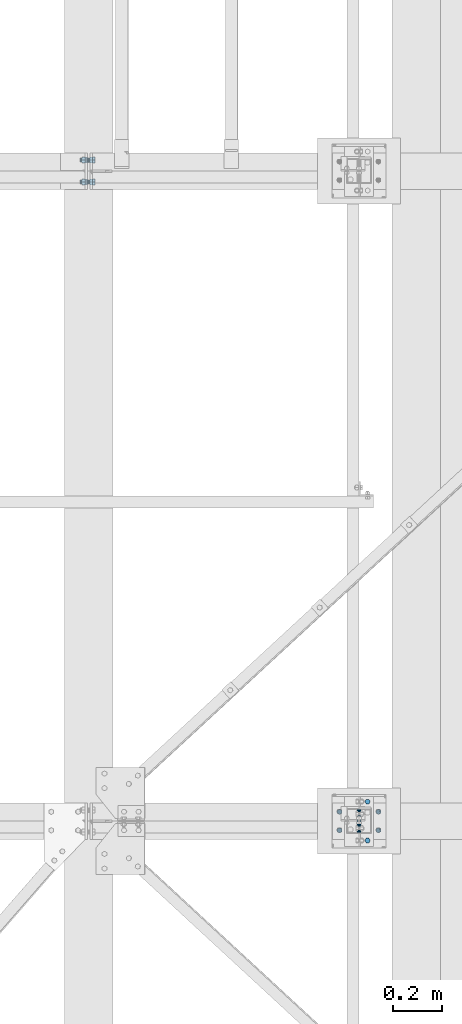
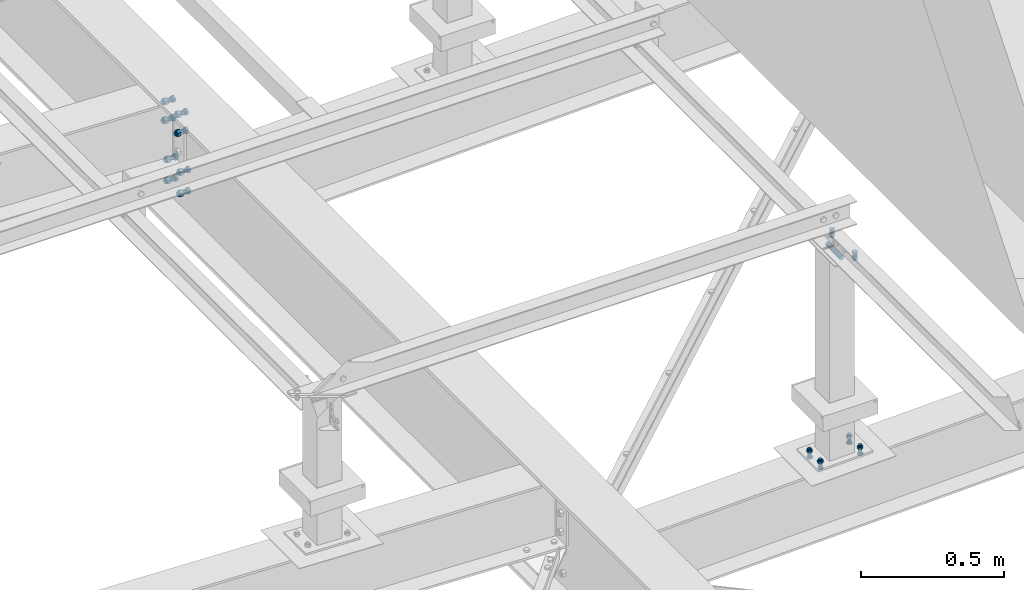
# One storey, part 179 of 3134: 7 mechanical fasteners, 4 elements without a shape of their own.
"""IFC2X3 building model written with IfcOpenShell, lengths in millimetres."""

from ifc_helpers import new_model, si_unit, frame, origin_with_axes, place, context, subcontext, project, spatial, faceted_brep, source, transform, mapped, material, type_object, element, aggregate, save


model = new_model("IFC2X3")

# Units and contexts
model_context = context("Model", 3, precision=1e-05, world=origin_with_axes())
body_context = subcontext(model_context, "Body", "Model", "MODEL_VIEW")
ifc_project = project(units=[si_unit("LENGTHUNIT", "METRE", prefix="MILLI"), si_unit("AREAUNIT", "SQUARE_METRE"), si_unit("VOLUMEUNIT", "CUBIC_METRE"), si_unit("MASSUNIT", "GRAM", prefix="KILO"), si_unit("TIMEUNIT", "SECOND"), si_unit("PLANEANGLEUNIT", "RADIAN"), si_unit("SOLIDANGLEUNIT", "STERADIAN"), si_unit("THERMODYNAMICTEMPERATUREUNIT", "DEGREE_CELSIUS"), si_unit("LUMINOUSINTENSITYUNIT", "LUMEN")], contexts=[model_context])

# Site, building, storey
site_placement = place(None, origin_with_axes())
site = spatial("IfcSite", under=ifc_project, at=site_placement, CompositionType="ELEMENT")
building_placement = place(site_placement, origin_with_axes())
building = spatial("IfcBuilding", under=site, at=building_placement, Name="Undefined", CompositionType="ELEMENT")
storey_placement = place(building_placement, origin_with_axes())
storey = spatial("IfcBuildingStorey", under=building, at=storey_placement, Name="Undefined", CompositionType="ELEMENT", Elevation=0.0)

# Assembly, mechanical fastener
assembly_1_placement = place(storey_placement, origin_with_axes())
assembly_1 = element("IfcElementAssembly", 1, at=assembly_1_placement, inside=storey, AssemblyPlace="NOTDEFINED", PredefinedType="RIGID_FRAME")
ifc_material = material(Name="8.8")
mechanical_fastener_type = type_object("IfcMechanicalFastenerType", Name="Bolt assembly")
shared_shape_1 = source(origin_with_axes(), body_context, "Body", "Brep", [
    faceted_brep([(10.9696551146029, -14.0, 0.0), (5.48482755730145, -14.0, 9.5), (-5.48482755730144, -14.0, 9.5), (-10.9696551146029, -14.0, 1.34339530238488e-15), (-5.48482755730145, -14.0, -9.5), (5.48482755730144, -14.0, -9.50000000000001), (5.48482755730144, -6.0, -9.50000000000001), (-5.48482755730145, -6.0, -9.5), (-10.9696551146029, -6.0, 1.34339530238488e-15), (-5.48482755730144, -6.0, 9.5), (5.48482755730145, -6.0, 9.5), (10.9696551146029, -6.0, 0.0), (6.0, -6.0, 0.0), (5.19615242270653, -6.0, 3.00000000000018), (2.99999999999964, -6.0, 5.19615242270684), (-6.21801588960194e-13, -6.0, 6.0), (-3.00000000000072, -6.0, 5.19615242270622), (-5.19615242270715, -6.0, 2.9999999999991), (-6.0, -6.0, -1.24360317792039e-12), (-5.19615242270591, -6.0, -3.00000000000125), (-2.99999999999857, -6.0, -5.19615242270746), (1.85874342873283e-12, -6.0, -6.0), (3.00000000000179, -6.0, -5.1961524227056), (5.19615242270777, -6.0, -2.99999999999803), (5.19615242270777, 24.0, -2.99999999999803), (3.00000000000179, 24.0, -5.1961524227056), (1.85874342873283e-12, 24.0, -6.0), (-2.99999999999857, 24.0, -5.19615242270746), (-5.19615242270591, 24.0, -3.00000000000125), (-6.0, 24.0, -1.24360317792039e-12), (-5.19615242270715, 24.0, 2.9999999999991), (-3.00000000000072, 24.0, 5.19615242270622), (-6.21801588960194e-13, 24.0, 6.0), (2.99999999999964, 24.0, 5.19615242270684), (5.19615242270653, 24.0, 3.00000000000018), (6.0, 24.0, 0.0), (10.9696551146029, 6.00000000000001, 0.0), (5.48482755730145, 6.00000000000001, 9.5), (-5.48482755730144, 6.00000000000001, 9.5), (-10.9696551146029, 6.00000000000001, 1.34339530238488e-15), (-5.48482755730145, 6.00000000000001, -9.5), (5.48482755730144, 6.00000000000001, -9.50000000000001), (5.48482755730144, 16.0, -9.50000000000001), (-5.48482755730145, 16.0, -9.5), (-10.9696551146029, 16.0, 1.34339530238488e-15), (-5.48482755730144, 16.0, 9.5), (5.48482755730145, 16.0, 9.5), (10.9696551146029, 16.0, 0.0)], [[[0, 1, 2, 3, 4, 5]], [[6, 7, 8, 9, 10, 11]], [[0, 11, 10, 1]], [[1, 10, 9, 2]], [[2, 9, 8, 3]], [[3, 8, 7, 4]], [[4, 7, 6, 5]], [[5, 6, 11, 0]], [[12, 13, 14, 15, 16, 17, 18, 19, 20, 21, 22, 23]], [[24, 25, 26, 27, 28, 29, 30, 31, 32, 33, 34, 35]], [[12, 35, 34, 13]], [[13, 34, 33, 14]], [[14, 33, 32, 15]], [[15, 32, 31, 16]], [[16, 31, 30, 17]], [[17, 30, 29, 18]], [[18, 29, 28, 19]], [[19, 28, 27, 20]], [[20, 27, 26, 21]], [[21, 26, 25, 22]], [[22, 25, 24, 23]], [[23, 24, 35, 12]], [[36, 37, 38, 39, 40, 41]], [[42, 43, 44, 45, 46, 47]], [[36, 47, 46, 37]], [[37, 46, 45, 38]], [[38, 45, 44, 39]], [[39, 44, 43, 40]], [[40, 43, 42, 41]], [[41, 42, 47, 36]]]),
    faceted_brep([(7.0, -0.1, 0.0), (6.06217782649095, -0.1, 3.50000000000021), (3.49999999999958, -0.1, 6.06217782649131), (-7.25435187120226e-13, -0.1, 7.0), (-3.50000000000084, -0.1, 6.06217782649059), (-6.06217782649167, -0.1, 3.49999999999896), (-7.0, -0.1, -1.45087037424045e-12), (-6.06217782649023, -0.1, -3.50000000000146), (-3.49999999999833, -0.1, -6.06217782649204), (2.1685340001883e-12, -0.1, -7.0), (3.50000000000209, -0.1, -6.06217782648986), (6.0621778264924, -0.1, -3.4999999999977), (6.0621778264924, 6.00000000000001, -3.4999999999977), (3.50000000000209, 6.00000000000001, -6.06217782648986), (2.1685340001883e-12, 6.00000000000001, -7.0), (-3.49999999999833, 6.00000000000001, -6.06217782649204), (-6.06217782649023, 6.00000000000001, -3.50000000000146), (-7.0, 6.00000000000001, -1.45087037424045e-12), (-6.06217782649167, 6.00000000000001, 3.49999999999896), (-3.50000000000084, 6.00000000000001, 6.06217782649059), (-7.25435187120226e-13, 6.00000000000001, 7.0), (3.49999999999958, 6.00000000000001, 6.06217782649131), (6.06217782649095, 6.00000000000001, 3.50000000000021), (7.0, 6.00000000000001, 0.0), (7.0, -5.9, 0.0), (6.06217782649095, -5.9, 3.50000000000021), (3.49999999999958, -5.9, 6.06217782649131), (-7.25435187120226e-13, -5.9, 7.0), (-3.50000000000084, -5.9, 6.06217782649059), (-6.06217782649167, -5.9, 3.49999999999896), (-7.0, -5.9, -1.45087037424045e-12), (-6.06217782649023, -5.9, -3.50000000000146), (-3.49999999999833, -5.9, -6.06217782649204), (2.1685340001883e-12, -5.9, -7.0), (3.50000000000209, -5.9, -6.06217782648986), (6.0621778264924, -5.9, -3.4999999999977), (6.0621778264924, 0.0999999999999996, -3.4999999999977), (3.50000000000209, 0.0999999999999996, -6.06217782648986), (2.1685340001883e-12, 0.0999999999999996, -7.0), (-3.49999999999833, 0.0999999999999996, -6.06217782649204), (-6.06217782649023, 0.0999999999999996, -3.50000000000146), (-7.0, 0.0999999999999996, -1.45087037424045e-12), (-6.06217782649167, 0.0999999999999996, 3.49999999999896), (-3.50000000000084, 0.0999999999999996, 6.06217782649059), (-7.25435187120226e-13, 0.0999999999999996, 7.0), (3.49999999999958, 0.0999999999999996, 6.06217782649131), (6.06217782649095, 0.0999999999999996, 3.50000000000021), (7.0, 0.0999999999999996, 0.0)], [[[0, 1, 2, 3, 4, 5, 6, 7, 8, 9, 10, 11]], [[12, 13, 14, 15, 16, 17, 18, 19, 20, 21, 22, 23]], [[0, 23, 22, 1]], [[1, 22, 21, 2]], [[2, 21, 20, 3]], [[3, 20, 19, 4]], [[4, 19, 18, 5]], [[5, 18, 17, 6]], [[6, 17, 16, 7]], [[7, 16, 15, 8]], [[8, 15, 14, 9]], [[9, 14, 13, 10]], [[10, 13, 12, 11]], [[11, 12, 23, 0]], [[24, 25, 26, 27, 28, 29, 30, 31, 32, 33, 34, 35]], [[36, 37, 38, 39, 40, 41, 42, 43, 44, 45, 46, 47]], [[24, 47, 46, 25]], [[25, 46, 45, 26]], [[26, 45, 44, 27]], [[27, 44, 43, 28]], [[28, 43, 42, 29]], [[29, 42, 41, 30]], [[30, 41, 40, 31]], [[31, 40, 39, 32]], [[32, 39, 38, 33]], [[33, 38, 37, 34]], [[34, 37, 36, 35]], [[35, 36, 47, 24]]]),
])
mechanical_fastener_1_placement = place(assembly_1_placement, frame((10440.0, 34912.5, 4265.0), z_axis=(0.0, -1.0, 0.0), x_axis=(-1.0, 0.0, 0.0)))
mechanical_fastener_1 = element("IfcMechanicalFastener", 2, at=mechanical_fastener_1_placement, type_object=mechanical_fastener_type, material=ifc_material, Name="Bolt assembly", NominalDiameter=12.0, NominalLength=30.0, context=body_context, shape_type="MappedRepresentation", body=[
    mapped(shared_shape_1, transform((0.0, -5.32963895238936e-10, -79.9999999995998))),
    mapped(shared_shape_1, transform((0.0, 5.3114490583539e-10, 79.9999999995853))),
])
aggregate(assembly_1, [mechanical_fastener_1])

# Assembly, mechanical fasteners
assembly_2_placement = place(storey_placement, origin_with_axes())
assembly_2 = element("IfcElementAssembly", 3, at=assembly_2_placement, inside=storey, Name="IPE500", AssemblyPlace="NOTDEFINED", PredefinedType="RIGID_FRAME")
shared_shape_2 = source(origin_with_axes(), body_context, "Body", "Brep", [
    faceted_brep([(13.856406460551, 0.0, 0.0), (6.92820323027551, 0.0, 12.0), (-6.92820323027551, 0.0, 12.0), (-13.856406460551, 0.0, 1.69692038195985e-15), (-6.92820323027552, 0.0, -12.0), (6.9282032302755, 0.0, -12.0), (6.9282032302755, 9.99999995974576, -12.0), (-6.92820323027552, 9.99999995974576, -12.0), (-13.856406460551, 9.99999995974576, 1.69692038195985e-15), (-6.92820323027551, 9.99999995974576, 12.0), (6.92820323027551, 9.99999995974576, 12.0), (13.856406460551, 9.99999995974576, 0.0), (8.0, 9.99999995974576, 0.0), (6.92820323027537, 9.99999995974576, 4.00000000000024), (3.99999999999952, 9.99999995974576, 6.92820323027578), (-8.29068785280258e-13, 9.99999995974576, 8.0), (-4.00000000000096, 9.99999995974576, 6.92820323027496), (-6.9282032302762, 9.99999995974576, 3.99999999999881), (-8.0, 9.99999995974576, -1.65813757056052e-12), (-6.92820323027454, 9.99999995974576, -4.00000000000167), (-3.99999999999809, 9.99999995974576, -6.92820323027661), (2.47832457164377e-12, 9.99999995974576, -8.0), (4.00000000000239, 9.99999995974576, -6.92820323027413), (6.92820323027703, 9.99999995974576, -3.99999999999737), (6.92820323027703, 49.9999999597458, -3.99999999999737), (4.00000000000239, 49.9999999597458, -6.92820323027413), (2.47832457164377e-12, 49.9999999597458, -8.0), (-3.99999999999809, 49.9999999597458, -6.92820323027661), (-6.92820323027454, 49.9999999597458, -4.00000000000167), (-8.0, 49.9999999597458, -1.65813757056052e-12), (-6.9282032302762, 49.9999999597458, 3.99999999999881), (-4.00000000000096, 49.9999999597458, 6.92820323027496), (-8.29068785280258e-13, 49.9999999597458, 8.0), (3.99999999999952, 49.9999999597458, 6.92820323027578), (6.92820323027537, 49.9999999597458, 4.00000000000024), (8.0, 49.9999999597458, 0.0), (13.856406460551, 30.1999997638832, 0.0), (6.92820323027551, 30.1999997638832, 12.0), (-6.92820323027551, 30.1999997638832, 12.0), (-13.856406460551, 30.1999997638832, 1.69692038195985e-15), (-6.92820323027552, 30.1999997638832, -12.0), (6.9282032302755, 30.1999997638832, -12.0), (6.9282032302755, 43.1999997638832, -12.0), (-6.92820323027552, 43.1999997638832, -12.0), (-13.856406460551, 43.1999997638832, 1.69692038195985e-15), (-6.92820323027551, 43.1999997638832, 12.0), (6.92820323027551, 43.1999997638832, 12.0), (13.856406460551, 43.1999997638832, 0.0)], [[[0, 1, 2, 3, 4, 5]], [[6, 7, 8, 9, 10, 11]], [[0, 11, 10, 1]], [[1, 10, 9, 2]], [[2, 9, 8, 3]], [[3, 8, 7, 4]], [[4, 7, 6, 5]], [[5, 6, 11, 0]], [[12, 13, 14, 15, 16, 17, 18, 19, 20, 21, 22, 23]], [[24, 25, 26, 27, 28, 29, 30, 31, 32, 33, 34, 35]], [[12, 35, 34, 13]], [[13, 34, 33, 14]], [[14, 33, 32, 15]], [[15, 32, 31, 16]], [[16, 31, 30, 17]], [[17, 30, 29, 18]], [[18, 29, 28, 19]], [[19, 28, 27, 20]], [[20, 27, 26, 21]], [[21, 26, 25, 22]], [[22, 25, 24, 23]], [[23, 24, 35, 12]], [[36, 37, 38, 39, 40, 41]], [[42, 43, 44, 45, 46, 47]], [[36, 47, 46, 37]], [[37, 46, 45, 38]], [[38, 45, 44, 39]], [[39, 44, 43, 40]], [[40, 43, 42, 41]], [[41, 42, 47, 36]]]),
    faceted_brep([(9.0, 20.0999997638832, 0.0), (7.79422863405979, 20.0999997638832, 4.50000000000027), (4.49999999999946, 20.0999997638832, 7.79422863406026), (-9.3270238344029e-13, 20.0999997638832, 9.0), (-4.50000000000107, 20.0999997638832, 7.79422863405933), (-7.79422863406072, 20.0999997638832, 4.49999999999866), (-9.0, 20.0999997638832, -1.86540476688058e-12), (-7.79422863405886, 20.0999997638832, -4.50000000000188), (-4.49999999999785, 20.0999997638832, -7.79422863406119), (2.78811514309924e-12, 20.0999997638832, -9.0), (4.50000000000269, 20.0999997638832, -7.7942286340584), (7.79422863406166, 20.0999997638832, -4.49999999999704), (7.79422863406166, 30.1999997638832, -4.49999999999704), (4.50000000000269, 30.1999997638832, -7.7942286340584), (2.78811514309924e-12, 30.1999997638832, -9.0), (-4.49999999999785, 30.1999997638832, -7.79422863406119), (-7.79422863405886, 30.1999997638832, -4.50000000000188), (-9.0, 30.1999997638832, -1.86540476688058e-12), (-7.79422863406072, 30.1999997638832, 4.49999999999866), (-4.50000000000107, 30.1999997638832, 7.79422863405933), (-9.3270238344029e-13, 30.1999997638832, 9.0), (4.49999999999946, 30.1999997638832, 7.79422863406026), (7.79422863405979, 30.1999997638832, 4.50000000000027), (9.0, 30.1999997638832, 0.0), (9.0, 10.1000023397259, 0.0), (7.79422863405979, 10.1000023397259, 4.50000000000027), (4.49999999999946, 10.1000023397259, 7.79422863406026), (-9.3270238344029e-13, 10.1000023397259, 9.0), (-4.50000000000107, 10.1000023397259, 7.79422863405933), (-7.79422863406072, 10.1000023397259, 4.49999999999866), (-9.0, 10.1000023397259, -1.86540476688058e-12), (-7.79422863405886, 10.1000023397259, -4.50000000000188), (-4.49999999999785, 10.1000023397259, -7.79422863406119), (2.78811514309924e-12, 10.1000023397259, -9.0), (4.50000000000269, 10.1000023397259, -7.7942286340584), (7.79422863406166, 10.1000023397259, -4.49999999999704), (7.79422863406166, 20.2999997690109, -4.49999999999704), (4.50000000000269, 20.2999997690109, -7.7942286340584), (2.78811514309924e-12, 20.2999997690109, -9.0), (-4.49999999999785, 20.2999997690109, -7.79422863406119), (-7.79422863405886, 20.2999997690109, -4.50000000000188), (-9.0, 20.2999997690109, -1.86540476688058e-12), (-7.79422863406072, 20.2999997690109, 4.49999999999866), (-4.50000000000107, 20.2999997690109, 7.79422863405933), (-9.3270238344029e-13, 20.2999997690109, 9.0), (4.49999999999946, 20.2999997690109, 7.79422863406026), (7.79422863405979, 20.2999997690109, 4.50000000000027), (9.0, 20.2999997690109, 0.0)], [[[0, 1, 2, 3, 4, 5, 6, 7, 8, 9, 10, 11]], [[12, 13, 14, 15, 16, 17, 18, 19, 20, 21, 22, 23]], [[0, 23, 22, 1]], [[1, 22, 21, 2]], [[2, 21, 20, 3]], [[3, 20, 19, 4]], [[4, 19, 18, 5]], [[5, 18, 17, 6]], [[6, 17, 16, 7]], [[7, 16, 15, 8]], [[8, 15, 14, 9]], [[9, 14, 13, 10]], [[10, 13, 12, 11]], [[11, 12, 23, 0]], [[24, 25, 26, 27, 28, 29, 30, 31, 32, 33, 34, 35]], [[36, 37, 38, 39, 40, 41, 42, 43, 44, 45, 46, 47]], [[24, 47, 46, 25]], [[25, 46, 45, 26]], [[26, 45, 44, 27]], [[27, 44, 43, 28]], [[28, 43, 42, 29]], [[29, 42, 41, 30]], [[30, 41, 40, 31]], [[31, 40, 39, 32]], [[32, 39, 38, 33]], [[33, 38, 37, 34]], [[34, 37, 36, 35]], [[35, 36, 47, 24]]]),
])
mechanical_fastener_2_placement = place(assembly_2_placement, frame((9310.09999986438, 37536.25, 3631.67000001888), z_axis=(0.0, 1.0, 0.0), x_axis=(0.0, 0.0, -1.0)))
mechanical_fastener_2 = element("IfcMechanicalFastener", 4, at=mechanical_fastener_2_placement, type_object=mechanical_fastener_type, material=ifc_material, Name="Bolt assembly", NominalDiameter=16.0, NominalLength=40.0, context=body_context, shape_type="MappedRepresentation", body=[
    mapped(shared_shape_2, transform((0.0, 0.0, 0.0))),
    mapped(shared_shape_2, transform((80.0, 0.0, 0.0))),
])
mechanical_fastener_3_placement = place(assembly_2_placement, frame((9310.09999986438, 37626.25, 3631.67000001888), z_axis=(0.0, 1.0, 0.0), x_axis=(0.0, 0.0, -1.0)))
mechanical_fastener_3 = element("IfcMechanicalFastener", 5, at=mechanical_fastener_3_placement, type_object=mechanical_fastener_type, material=ifc_material, Name="Bolt assembly", NominalDiameter=16.0, NominalLength=40.0, context=body_context, shape_type="MappedRepresentation", body=[
    mapped(shared_shape_2, transform((0.0, 0.0, 0.0))),
    mapped(shared_shape_2, transform((80.0, 0.0, 0.0))),
])
shared_shape_3 = source(origin_with_axes(), body_context, "Body", "Brep", [
    faceted_brep([(13.856406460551, -10.0, 0.0), (6.92820323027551, -10.0, 12.0), (-6.92820323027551, -10.0, 12.0), (-13.856406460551, -10.0, 1.69692038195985e-15), (-6.92820323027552, -10.0, -12.0), (6.9282032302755, -10.0, -12.0), (6.9282032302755, 0.0, -12.0), (-6.92820323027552, 0.0, -12.0), (-13.856406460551, 0.0, 1.69692038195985e-15), (-6.92820323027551, 0.0, 12.0), (6.92820323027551, 0.0, 12.0), (13.856406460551, 0.0, 0.0), (8.0, 0.0, 0.0), (6.92820323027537, 0.0, 4.00000000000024), (3.99999999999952, 0.0, 6.92820323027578), (-8.29068785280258e-13, 0.0, 8.0), (-4.00000000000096, 0.0, 6.92820323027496), (-6.9282032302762, 0.0, 3.99999999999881), (-8.0, 0.0, -1.65813757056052e-12), (-6.92820323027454, 0.0, -4.00000000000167), (-3.99999999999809, 0.0, -6.92820323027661), (2.47832457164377e-12, 0.0, -8.0), (4.00000000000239, 0.0, -6.92820323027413), (6.92820323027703, 0.0, -3.99999999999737), (6.92820323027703, 40.0, -3.99999999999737), (4.00000000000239, 40.0, -6.92820323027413), (2.47832457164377e-12, 40.0, -8.0), (-3.99999999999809, 40.0, -6.92820323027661), (-6.92820323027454, 40.0, -4.00000000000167), (-8.0, 40.0, -1.65813757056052e-12), (-6.9282032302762, 40.0, 3.99999999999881), (-4.00000000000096, 40.0, 6.92820323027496), (-8.29068785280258e-13, 40.0, 8.0), (3.99999999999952, 40.0, 6.92820323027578), (6.92820323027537, 40.0, 4.00000000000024), (8.0, 40.0, 0.0), (13.856406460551, 20.1999997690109, 0.0), (6.92820323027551, 20.1999997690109, 12.0), (-6.92820323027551, 20.1999997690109, 12.0), (-13.856406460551, 20.1999997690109, 1.69692038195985e-15), (-6.92820323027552, 20.1999997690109, -12.0), (6.9282032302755, 20.1999997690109, -12.0), (6.9282032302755, 33.1999997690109, -12.0), (-6.92820323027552, 33.1999997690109, -12.0), (-13.856406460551, 33.1999997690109, 1.69692038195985e-15), (-6.92820323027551, 33.1999997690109, 12.0), (6.92820323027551, 33.1999997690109, 12.0), (13.856406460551, 33.1999997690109, 0.0)], [[[0, 1, 2, 3, 4, 5]], [[6, 7, 8, 9, 10, 11]], [[0, 11, 10, 1]], [[1, 10, 9, 2]], [[2, 9, 8, 3]], [[3, 8, 7, 4]], [[4, 7, 6, 5]], [[5, 6, 11, 0]], [[12, 13, 14, 15, 16, 17, 18, 19, 20, 21, 22, 23]], [[24, 25, 26, 27, 28, 29, 30, 31, 32, 33, 34, 35]], [[12, 35, 34, 13]], [[13, 34, 33, 14]], [[14, 33, 32, 15]], [[15, 32, 31, 16]], [[16, 31, 30, 17]], [[17, 30, 29, 18]], [[18, 29, 28, 19]], [[19, 28, 27, 20]], [[20, 27, 26, 21]], [[21, 26, 25, 22]], [[22, 25, 24, 23]], [[23, 24, 35, 12]], [[36, 37, 38, 39, 40, 41]], [[42, 43, 44, 45, 46, 47]], [[36, 47, 46, 37]], [[37, 46, 45, 38]], [[38, 45, 44, 39]], [[39, 44, 43, 40]], [[40, 43, 42, 41]], [[41, 42, 47, 36]]]),
    faceted_brep([(9.0, 0.100000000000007, 0.0), (7.79422863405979, 0.100000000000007, 4.50000000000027), (4.49999999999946, 0.100000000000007, 7.79422863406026), (-9.3270238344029e-13, 0.100000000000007, 9.0), (-4.50000000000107, 0.100000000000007, 7.79422863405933), (-7.79422863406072, 0.100000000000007, 4.49999999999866), (-9.0, 0.100000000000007, -1.86540476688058e-12), (-7.79422863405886, 0.100000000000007, -4.50000000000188), (-4.49999999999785, 0.100000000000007, -7.79422863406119), (2.78811514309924e-12, 0.100000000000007, -9.0), (4.50000000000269, 0.100000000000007, -7.7942286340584), (7.79422863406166, 0.100000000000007, -4.49999999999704), (7.79422863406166, 10.1000023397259, -4.49999999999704), (4.50000000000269, 10.1000023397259, -7.7942286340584), (2.78811514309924e-12, 10.1000023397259, -9.0), (-4.49999999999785, 10.1000023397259, -7.79422863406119), (-7.79422863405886, 10.1000023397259, -4.50000000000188), (-9.0, 10.1000023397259, -1.86540476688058e-12), (-7.79422863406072, 10.1000023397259, 4.49999999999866), (-4.50000000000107, 10.1000023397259, 7.79422863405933), (-9.3270238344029e-13, 10.1000023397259, 9.0), (4.49999999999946, 10.1000023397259, 7.79422863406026), (7.79422863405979, 10.1000023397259, 4.50000000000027), (9.0, 10.1000023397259, 0.0), (9.0, 9.89999999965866, 0.0), (7.79422863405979, 9.89999999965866, 4.50000000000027), (4.49999999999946, 9.89999999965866, 7.79422863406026), (-9.3270238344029e-13, 9.89999999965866, 9.0), (-4.50000000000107, 9.89999999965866, 7.79422863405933), (-7.79422863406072, 9.89999999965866, 4.49999999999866), (-9.0, 9.89999999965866, -1.86540476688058e-12), (-7.79422863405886, 9.89999999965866, -4.50000000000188), (-4.49999999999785, 9.89999999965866, -7.79422863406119), (2.78811514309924e-12, 9.89999999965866, -9.0), (4.50000000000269, 9.89999999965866, -7.7942286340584), (7.79422863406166, 9.89999999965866, -4.49999999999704), (7.79422863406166, 20.1999997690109, -4.49999999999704), (4.50000000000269, 20.1999997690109, -7.7942286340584), (2.78811514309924e-12, 20.1999997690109, -9.0), (-4.49999999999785, 20.1999997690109, -7.79422863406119), (-7.79422863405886, 20.1999997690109, -4.50000000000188), (-9.0, 20.1999997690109, -1.86540476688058e-12), (-7.79422863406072, 20.1999997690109, 4.49999999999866), (-4.50000000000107, 20.1999997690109, 7.79422863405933), (-9.3270238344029e-13, 20.1999997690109, 9.0), (4.49999999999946, 20.1999997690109, 7.79422863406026), (7.79422863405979, 20.1999997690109, 4.50000000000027), (9.0, 20.1999997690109, 0.0)], [[[0, 1, 2, 3, 4, 5, 6, 7, 8, 9, 10, 11]], [[12, 13, 14, 15, 16, 17, 18, 19, 20, 21, 22, 23]], [[0, 23, 22, 1]], [[1, 22, 21, 2]], [[2, 21, 20, 3]], [[3, 20, 19, 4]], [[4, 19, 18, 5]], [[5, 18, 17, 6]], [[6, 17, 16, 7]], [[7, 16, 15, 8]], [[8, 15, 14, 9]], [[9, 14, 13, 10]], [[10, 13, 12, 11]], [[11, 12, 23, 0]], [[24, 25, 26, 27, 28, 29, 30, 31, 32, 33, 34, 35]], [[36, 37, 38, 39, 40, 41, 42, 43, 44, 45, 46, 47]], [[24, 47, 46, 25]], [[25, 46, 45, 26]], [[26, 45, 44, 27]], [[27, 44, 43, 28]], [[28, 43, 42, 29]], [[29, 42, 41, 30]], [[30, 41, 40, 31]], [[31, 40, 39, 32]], [[32, 39, 38, 33]], [[33, 38, 37, 34]], [[34, 37, 36, 35]], [[35, 36, 47, 24]]]),
])
mechanical_fastener_4_placement = place(assembly_2_placement, frame((9310.09999986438, 37536.25, 3381.67000001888), z_axis=(0.0, 1.0, 0.0), x_axis=(0.0, 0.0, -1.0)))
mechanical_fastener_4 = element("IfcMechanicalFastener", 6, at=mechanical_fastener_4_placement, type_object=mechanical_fastener_type, material=ifc_material, Name="Bolt assembly", NominalDiameter=16.0, NominalLength=40.0, context=body_context, shape_type="MappedRepresentation", body=[
    mapped(shared_shape_3, transform((0.0, 0.0, 0.0))),
    mapped(shared_shape_3, transform((90.0, 0.0, 0.0))),
])
mechanical_fastener_5_placement = place(assembly_2_placement, frame((9310.09999986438, 37626.25, 3381.67000001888), z_axis=(0.0, 1.0, 0.0), x_axis=(0.0, 0.0, -1.0)))
mechanical_fastener_5 = element("IfcMechanicalFastener", 7, at=mechanical_fastener_5_placement, type_object=mechanical_fastener_type, material=ifc_material, Name="Bolt assembly", NominalDiameter=16.0, NominalLength=40.0, context=body_context, shape_type="MappedRepresentation", body=[
    mapped(shared_shape_3, transform((0.0, 0.0, 0.0))),
    mapped(shared_shape_3, transform((90.0, 0.0, 0.0))),
])
aggregate(assembly_2, [mechanical_fastener_2, mechanical_fastener_3, mechanical_fastener_4, mechanical_fastener_5])

# Assembly, mechanical fastener
assembly_3_placement = place(storey_placement, origin_with_axes())
assembly_3 = element("IfcElementAssembly", 8, at=assembly_3_placement, inside=storey, Name="300", AssemblyPlace="NOTDEFINED", PredefinedType="RIGID_FRAME")
shared_shape_4 = source(origin_with_axes(), body_context, "Body", "Brep", [
    faceted_brep([(10.9696551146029, -4.1984682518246, 0.0), (5.48482755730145, -4.1984682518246, 9.5), (-5.48482755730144, -4.1984682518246, 9.5), (-10.9696551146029, -4.1984682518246, 1.34339530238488e-15), (-5.48482755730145, -4.1984682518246, -9.5), (5.48482755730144, -4.1984682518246, -9.50000000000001), (5.48482755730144, 3.8015317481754, -9.50000000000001), (-5.48482755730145, 3.8015317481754, -9.5), (-10.9696551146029, 3.8015317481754, 1.34339530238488e-15), (-5.48482755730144, 3.8015317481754, 9.5), (5.48482755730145, 3.8015317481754, 9.5), (10.9696551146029, 3.8015317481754, 0.0), (6.0, 3.8015317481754, 0.0), (5.19615242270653, 3.8015317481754, 3.00000000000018), (2.99999999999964, 3.8015317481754, 5.19615242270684), (-6.21801588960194e-13, 3.8015317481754, 6.0), (-3.00000000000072, 3.8015317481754, 5.19615242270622), (-5.19615242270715, 3.8015317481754, 2.9999999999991), (-6.0, 3.8015317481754, -1.24360317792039e-12), (-5.19615242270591, 3.8015317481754, -3.00000000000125), (-2.99999999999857, 3.8015317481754, -5.19615242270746), (1.85874342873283e-12, 3.8015317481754, -6.0), (3.00000000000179, 3.8015317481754, -5.1961524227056), (5.19615242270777, 3.8015317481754, -2.99999999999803), (5.19615242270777, 38.8015317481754, -2.99999999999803), (3.00000000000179, 38.8015317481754, -5.1961524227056), (1.85874342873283e-12, 38.8015317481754, -6.0), (-2.99999999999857, 38.8015317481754, -5.19615242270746), (-5.19615242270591, 38.8015317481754, -3.00000000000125), (-6.0, 38.8015317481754, -1.24360317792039e-12), (-5.19615242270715, 38.8015317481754, 2.9999999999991), (-3.00000000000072, 38.8015317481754, 5.19615242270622), (-6.21801588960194e-13, 38.8015317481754, 6.0), (2.99999999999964, 38.8015317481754, 5.19615242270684), (5.19615242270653, 38.8015317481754, 3.00000000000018), (6.0, 38.8015317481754, 0.0), (10.9696551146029, 23.0039050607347, 0.0), (5.48482755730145, 23.0039050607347, 9.5), (-5.48482755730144, 23.0039050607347, 9.5), (-10.9696551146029, 23.0039050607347, 1.34339530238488e-15), (-5.48482755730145, 23.0039050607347, -9.5), (5.48482755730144, 23.0039050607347, -9.50000000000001), (5.48482755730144, 33.0039050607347, -9.50000000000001), (-5.48482755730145, 33.0039050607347, -9.5), (-10.9696551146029, 33.0039050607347, 1.34339530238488e-15), (-5.48482755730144, 33.0039050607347, 9.5), (5.48482755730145, 33.0039050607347, 9.5), (10.9696551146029, 33.0039050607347, 0.0)], [[[0, 1, 2, 3, 4, 5]], [[6, 7, 8, 9, 10, 11]], [[0, 11, 10, 1]], [[1, 10, 9, 2]], [[2, 9, 8, 3]], [[3, 8, 7, 4]], [[4, 7, 6, 5]], [[5, 6, 11, 0]], [[12, 13, 14, 15, 16, 17, 18, 19, 20, 21, 22, 23]], [[24, 25, 26, 27, 28, 29, 30, 31, 32, 33, 34, 35]], [[12, 35, 34, 13]], [[13, 34, 33, 14]], [[14, 33, 32, 15]], [[15, 32, 31, 16]], [[16, 31, 30, 17]], [[17, 30, 29, 18]], [[18, 29, 28, 19]], [[19, 28, 27, 20]], [[20, 27, 26, 21]], [[21, 26, 25, 22]], [[22, 25, 24, 23]], [[23, 24, 35, 12]], [[36, 37, 38, 39, 40, 41]], [[42, 43, 44, 45, 46, 47]], [[36, 47, 46, 37]], [[37, 46, 45, 38]], [[38, 45, 44, 39]], [[39, 44, 43, 40]], [[40, 43, 42, 41]], [[41, 42, 47, 36]]]),
    faceted_brep([(7.0, 14.9039050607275, 0.0), (6.06217782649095, 14.9039050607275, 3.50000000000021), (3.49999999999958, 14.9039050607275, 6.06217782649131), (-7.25435187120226e-13, 14.9039050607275, 7.0), (-3.50000000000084, 14.9039050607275, 6.06217782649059), (-6.06217782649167, 14.9039050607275, 3.49999999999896), (-7.0, 14.9039050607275, -1.45087037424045e-12), (-6.06217782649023, 14.9039050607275, -3.50000000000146), (-3.49999999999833, 14.9039050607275, -6.06217782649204), (2.1685340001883e-12, 14.9039050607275, -7.0), (3.50000000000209, 14.9039050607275, -6.06217782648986), (6.0621778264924, 14.9039050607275, -3.4999999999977), (6.0621778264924, 23.0039050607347, -3.4999999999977), (3.50000000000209, 23.0039050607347, -6.06217782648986), (2.1685340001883e-12, 23.0039050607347, -7.0), (-3.49999999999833, 23.0039050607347, -6.06217782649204), (-6.06217782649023, 23.0039050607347, -3.50000000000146), (-7.0, 23.0039050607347, -1.45087037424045e-12), (-6.06217782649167, 23.0039050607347, 3.49999999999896), (-3.50000000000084, 23.0039050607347, 6.06217782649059), (-7.25435187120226e-13, 23.0039050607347, 7.0), (3.49999999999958, 23.0039050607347, 6.06217782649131), (6.06217782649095, 23.0039050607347, 3.50000000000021), (7.0, 23.0039050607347, 0.0), (7.0, 3.9015317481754, 0.0), (6.06217782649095, 3.9015317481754, 3.50000000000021), (3.49999999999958, 3.9015317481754, 6.06217782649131), (-7.25435187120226e-13, 3.9015317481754, 7.0), (-3.50000000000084, 3.9015317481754, 6.06217782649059), (-6.06217782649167, 3.9015317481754, 3.49999999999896), (-7.0, 3.9015317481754, -1.45087037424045e-12), (-6.06217782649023, 3.9015317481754, -3.50000000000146), (-3.49999999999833, 3.9015317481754, -6.06217782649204), (2.1685340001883e-12, 3.9015317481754, -7.0), (3.50000000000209, 3.9015317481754, -6.06217782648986), (6.0621778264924, 3.9015317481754, -3.4999999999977), (6.0621778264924, 13.1015315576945, -3.4999999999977), (3.50000000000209, 13.1015315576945, -6.06217782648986), (2.1685340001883e-12, 13.1015315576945, -7.0), (-3.49999999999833, 13.1015315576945, -6.06217782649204), (-6.06217782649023, 13.1015315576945, -3.50000000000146), (-7.0, 13.1015315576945, -1.45087037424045e-12), (-6.06217782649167, 13.1015315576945, 3.49999999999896), (-3.50000000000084, 13.1015315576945, 6.06217782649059), (-7.25435187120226e-13, 13.1015315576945, 7.0), (3.49999999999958, 13.1015315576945, 6.06217782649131), (6.06217782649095, 13.1015315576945, 3.50000000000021), (7.0, 13.1015315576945, 0.0)], [[[0, 1, 2, 3, 4, 5, 6, 7, 8, 9, 10, 11]], [[12, 13, 14, 15, 16, 17, 18, 19, 20, 21, 22, 23]], [[0, 23, 22, 1]], [[1, 22, 21, 2]], [[2, 21, 20, 3]], [[3, 20, 19, 4]], [[4, 19, 18, 5]], [[5, 18, 17, 6]], [[6, 17, 16, 7]], [[7, 16, 15, 8]], [[8, 15, 14, 9]], [[9, 14, 13, 10]], [[10, 13, 12, 11]], [[11, 12, 23, 0]], [[24, 25, 26, 27, 28, 29, 30, 31, 32, 33, 34, 35]], [[36, 37, 38, 39, 40, 41, 42, 43, 44, 45, 46, 47]], [[24, 47, 46, 25]], [[25, 46, 45, 26]], [[26, 45, 44, 27]], [[27, 44, 43, 28]], [[28, 43, 42, 29]], [[29, 42, 41, 30]], [[30, 41, 40, 31]], [[31, 40, 39, 32]], [[32, 39, 38, 33]], [[33, 38, 37, 34]], [[34, 37, 36, 35]], [[35, 36, 47, 24]]]),
])
mechanical_fastener_6_placement = place(assembly_3_placement, frame((10405.7748812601, 34874.5, 3374.2272055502), z_axis=(0.999519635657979, 0.0, 0.0309919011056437), x_axis=(0.0, 1.0, 0.0)))
mechanical_fastener_6 = element("IfcMechanicalFastener", 9, at=mechanical_fastener_6_placement, type_object=mechanical_fastener_type, material=ifc_material, Name="Bolt assembly", NominalDiameter=12.0, NominalLength=35.0, context=body_context, shape_type="MappedRepresentation", body=[
    mapped(shared_shape_4, transform((0.0, -5.32963895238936e-10, -79.9999999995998))),
    mapped(shared_shape_4, transform((76.0, -5.32963895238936e-10, -79.9999999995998))),
    mapped(shared_shape_4, transform((0.0, 5.3114490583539e-10, 79.9999999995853))),
    mapped(shared_shape_4, transform((76.0, 5.3114490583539e-10, 79.9999999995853))),
])
aggregate(assembly_3, [mechanical_fastener_6])

assembly_4_placement = place(storey_placement, origin_with_axes())
assembly_4 = element("IfcElementAssembly", 10, at=assembly_4_placement, inside=storey, AssemblyPlace="NOTDEFINED", PredefinedType="RIGID_FRAME")
shared_shape_5 = source(origin_with_axes(), body_context, "Body", "Brep", [
    faceted_brep([(9.0, -50.0, 0.0), (7.79422863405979, -50.0, 4.50000000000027), (4.49999999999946, -50.0, 7.79422863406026), (-9.3270238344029e-13, -50.0, 9.0), (-4.50000000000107, -50.0, 7.79422863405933), (-7.79422863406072, -50.0, 4.49999999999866), (-9.0, -50.0, -1.86540476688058e-12), (-7.79422863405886, -50.0, -4.50000000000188), (-4.49999999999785, -50.0, -7.79422863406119), (2.78811514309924e-12, -50.0, -9.0), (4.50000000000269, -50.0, -7.7942286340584), (7.79422863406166, -50.0, -4.49999999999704), (7.79422863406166, 50.1, -4.49999999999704), (4.50000000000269, 50.1, -7.7942286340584), (2.78811514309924e-12, 50.1, -9.0), (-4.49999999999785, 50.1, -7.79422863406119), (-7.79422863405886, 50.1, -4.50000000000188), (-9.0, 50.1, -1.86540476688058e-12), (-7.79422863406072, 50.1, 4.49999999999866), (-4.50000000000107, 50.1, 7.79422863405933), (-9.3270238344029e-13, 50.1, 9.0), (4.49999999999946, 50.1, 7.79422863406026), (7.79422863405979, 50.1, 4.50000000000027), (9.0, 50.1, 0.0)], [[[0, 1, 2, 3, 4, 5, 6, 7, 8, 9, 10, 11]], [[12, 13, 14, 15, 16, 17, 18, 19, 20, 21, 22, 23]], [[0, 23, 22, 1]], [[1, 22, 21, 2]], [[2, 21, 20, 3]], [[3, 20, 19, 4]], [[4, 19, 18, 5]], [[5, 18, 17, 6]], [[6, 17, 16, 7]], [[7, 16, 15, 8]], [[8, 15, 14, 9]], [[9, 14, 13, 10]], [[10, 13, 12, 11]], [[11, 12, 23, 0]]]),
])
mechanical_fastener_7_placement = place(assembly_4_placement, frame((10405.0, 34912.5, 4245.0), z_axis=(-1.0, 0.0, 0.0), x_axis=(0.0, 0.0, 1.0)))
mechanical_fastener_7 = element("IfcMechanicalFastener", 11, at=mechanical_fastener_7_placement, type_object=mechanical_fastener_type, material=ifc_material, Name="Bolt assembly", NominalDiameter=16.0, NominalLength=100.0, context=body_context, shape_type="MappedRepresentation", body=[
    mapped(shared_shape_5, transform((0.0, 0.0, 0.0))),
])
aggregate(assembly_4, [mechanical_fastener_7])

save(model, "model.ifc")
